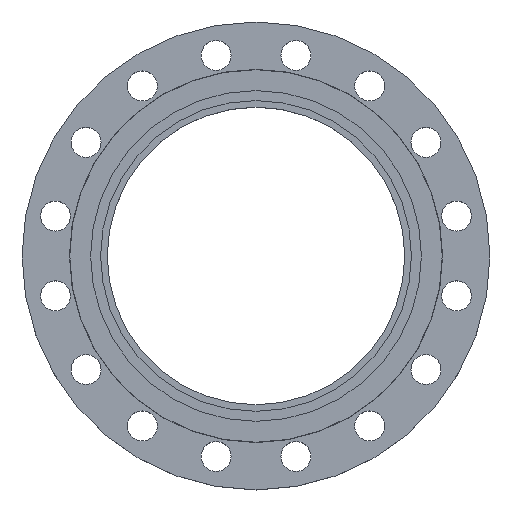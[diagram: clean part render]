
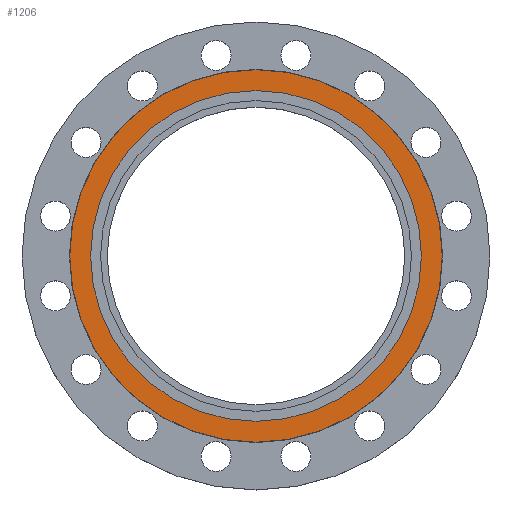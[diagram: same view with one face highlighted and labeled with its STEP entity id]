
A CAD part, top view. The second image highlights one B-rep face of the part: STEP entity #1206.
In plain terms, the highlighted planar face has unit normal (0, 0, 1).
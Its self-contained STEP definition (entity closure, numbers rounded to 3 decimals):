
#11 = VERTEX_POINT ( 'NONE', #1506 ) ;
#47 = VERTEX_POINT ( 'NONE', #1498 ) ;
#119 = EDGE_CURVE ( 'NONE', #47, #1556, #1279, .T. ) ;
#125 = CARTESIAN_POINT ( 'NONE',  ( -205., 0., 0. ) ) ;
#168 = CARTESIAN_POINT ( 'NONE',  ( -182., 0., 0. ) ) ;
#248 = DIRECTION ( 'NONE',  ( 0., 0., -1. ) ) ;
#249 = DIRECTION ( 'NONE',  ( -1., 0., 0. ) ) ;
#258 = CARTESIAN_POINT ( 'NONE',  ( 0., 0., 0. ) ) ;
#313 = EDGE_LOOP ( 'NONE', ( #463, #464 ) ) ;
#456 = DIRECTION ( 'NONE',  ( 1., 0., 0. ) ) ;
#458 = ORIENTED_EDGE ( 'NONE', *, *, #1431, .F. ) ;
#459 = ORIENTED_EDGE ( 'NONE', *, *, #119, .F. ) ;
#460 = DIRECTION ( 'NONE',  ( 0., 0., 1. ) ) ;
#461 = CARTESIAN_POINT ( 'NONE',  ( 0., 0., 0. ) ) ;
#463 = ORIENTED_EDGE ( 'NONE', *, *, #881, .T. ) ;
#464 = ORIENTED_EDGE ( 'NONE', *, *, #1132, .T. ) ;
#469 = PLANE ( 'NONE',  #1381 ) ;
#474 = FACE_BOUND ( 'NONE', #313, .T. ) ;
#476 = FACE_OUTER_BOUND ( 'NONE', #522, .T. ) ;
#522 = EDGE_LOOP ( 'NONE', ( #458, #459 ) ) ;
#564 = DIRECTION ( 'NONE',  ( -1., 0., 0. ) ) ;
#568 = DIRECTION ( 'NONE',  ( 0., 0., -1. ) ) ;
#569 = CARTESIAN_POINT ( 'NONE',  ( 0., 0., 0. ) ) ;
#728 = AXIS2_PLACEMENT_3D ( 'NONE', #1464, #1463, #1460 ) ;
#734 = AXIS2_PLACEMENT_3D ( 'NONE', #826, #825, #824 ) ;
#824 = DIRECTION ( 'NONE',  ( -1., 0., 0. ) ) ;
#825 = DIRECTION ( 'NONE',  ( 0., 0., -1. ) ) ;
#826 = CARTESIAN_POINT ( 'NONE',  ( 0., 0., 0. ) ) ;
#881 = EDGE_CURVE ( 'NONE', #1537, #11, #1172, .T. ) ;
#911 = AXIS2_PLACEMENT_3D ( 'NONE', #258, #248, #249 ) ;
#916 = CIRCLE ( 'NONE', #911, 205. ) ;
#1132 = EDGE_CURVE ( 'NONE', #11, #1537, #1539, .T. ) ;
#1172 = CIRCLE ( 'NONE', #734, 182. ) ;
#1206 = ADVANCED_FACE ( 'NONE', ( #476, #474 ), #469, .T. ) ;
#1279 = CIRCLE ( 'NONE', #728, 205. ) ;
#1381 = AXIS2_PLACEMENT_3D ( 'NONE', #461, #460, #456 ) ;
#1431 = EDGE_CURVE ( 'NONE', #1556, #47, #916, .T. ) ;
#1460 = DIRECTION ( 'NONE',  ( -1., 0., 0. ) ) ;
#1463 = DIRECTION ( 'NONE',  ( 0., 0., -1. ) ) ;
#1464 = CARTESIAN_POINT ( 'NONE',  ( 0., 0., 0. ) ) ;
#1498 = CARTESIAN_POINT ( 'NONE',  ( 205., 0., 0. ) ) ;
#1506 = CARTESIAN_POINT ( 'NONE',  ( 182., 0., 0. ) ) ;
#1533 = AXIS2_PLACEMENT_3D ( 'NONE', #569, #568, #564 ) ;
#1537 = VERTEX_POINT ( 'NONE', #168 ) ;
#1539 = CIRCLE ( 'NONE', #1533, 182. ) ;
#1556 = VERTEX_POINT ( 'NONE', #125 ) ;
